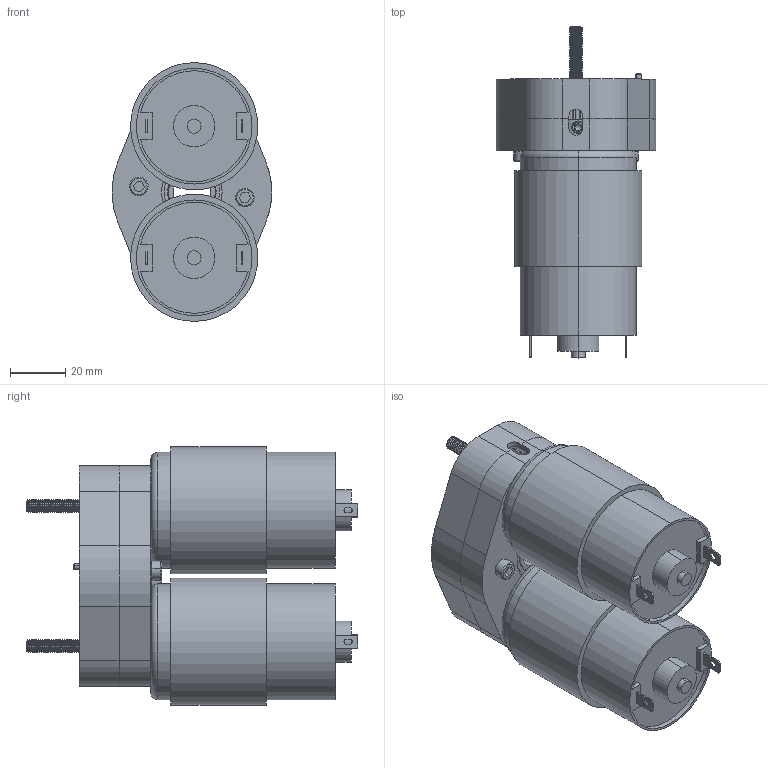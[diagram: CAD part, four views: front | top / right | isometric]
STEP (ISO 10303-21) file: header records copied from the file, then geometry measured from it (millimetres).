
FILE_DESCRIPTION (( 'STEP AP214' ), '1' );
FILE_NAME ('217-3141-RS775-STEP.STEP', '2014-01-14T23:39:03', ( '' ), ( '' ), 'SwSTEP 2.0', 'SolidWorks 2013', '' );
FILE_SCHEMA (( 'AUTOMOTIVE_DESIGN' ));
Length unit declared in the file: millimetre
Products named in the file (14): SSA_SSAM4-0010ZC; 91251A346_91251A346; NUT-832-NYLOCK; SSS1032-0188-ZB; PINL-M020-006-S; 217-2741; 217-3141-006 Rev1_30T 32DP; 217-3141-007 Rev1_30T 32DP; 217-3141-001 Rev1; 217-3141-RS775-STEP; 217-2625-013 Rev1; BB RS775-18V; 217-3141-004 Rev1; SSA_SSA0832-0750ZC
Assembly tree (24 placements, depth 2):
  217-3141-RS775-STEP
    217-3141-001 Rev1
    217-3141-007 Rev1_30T 32DP
    217-3141-006 Rev1_30T 32DP  x2
    217-2741  x2
    PINL-M020-006-S
    SSS1032-0188-ZB  x2
    NUT-832-NYLOCK  x2
    91251A346_91251A346  x2
    SSA_SSAM4-0010ZC  x4
    SSA_SSA0832-0750ZC  x2
    217-3141-004 Rev1
    BB RS775-18V  x2
    217-2625-013 Rev1  x2
Bounding box: 57.91 x 120.42 x 93.95 mm (x, y, z)
Volume: 244797.1 mm3; surface area: 76928.7 mm2
Topology: 24 solids, 24 shells, 1597 faces, 4322 edges, 2837 vertices
Faces by surface type: cylinder 796, plane 525, bspline 130, cone 110, torus 36
Entity records: 60776 total; most frequent: CARTESIAN_POINT 32360, ORIENTED_EDGE 6126, DIRECTION 5349, EDGE_CURVE 3063, VERTEX_POINT 2035, AXIS2_PLACEMENT_3D 1937, LINE 1475, VECTOR 1475
